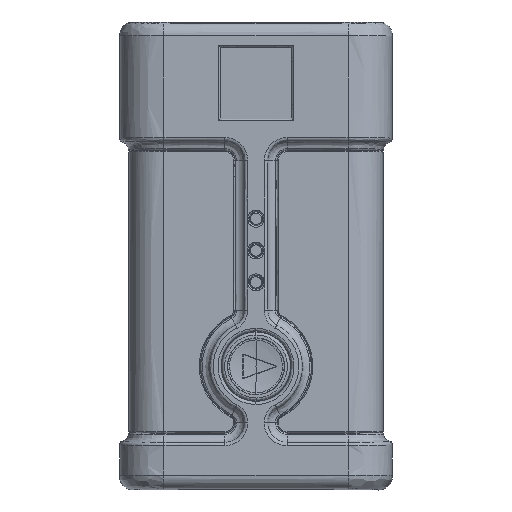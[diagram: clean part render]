
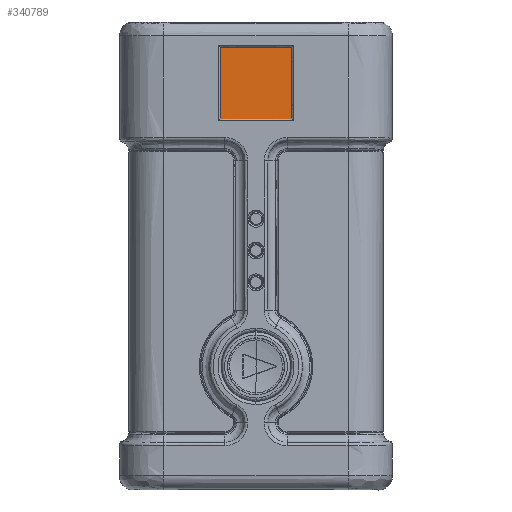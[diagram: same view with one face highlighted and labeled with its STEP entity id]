
A CAD part, front view. The second image highlights one B-rep face of the part: STEP entity #340789.
In plain terms, the highlighted planar face has unit normal (0, -1, 0).
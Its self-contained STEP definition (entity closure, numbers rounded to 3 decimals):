
#11855 = ORIENTED_EDGE ( 'NONE', *, *, #307532, .T. ) ;
#17626 = LINE ( 'NONE', #68305, #65494 ) ;
#26515 = VECTOR ( 'NONE', #213146, 1000. ) ;
#50999 = VECTOR ( 'NONE', #206475, 1000. ) ;
#60345 = DIRECTION ( 'NONE',  ( 0., 1., 0. ) ) ;
#65494 = VECTOR ( 'NONE', #232772, 1000. ) ;
#66495 = EDGE_CURVE ( 'NONE', #197398, #182605, #17626, .T. ) ;
#68305 = CARTESIAN_POINT ( 'NONE',  ( -7.9, -6.12, 38.05 ) ) ;
#90853 = CARTESIAN_POINT ( 'NONE',  ( -7.9, -6.12, 45.95 ) ) ;
#114055 = VECTOR ( 'NONE', #216165, 1000. ) ;
#122600 = EDGE_CURVE ( 'NONE', #182605, #163298, #264302, .T. ) ;
#136456 = CARTESIAN_POINT ( 'NONE',  ( 7.9, -6.12, 30.15 ) ) ;
#151900 = VERTEX_POINT ( 'NONE', #243113 ) ;
#163298 = VERTEX_POINT ( 'NONE', #243604 ) ;
#176284 = ORIENTED_EDGE ( 'NONE', *, *, #122600, .T. ) ;
#182605 = VERTEX_POINT ( 'NONE', #285081 ) ;
#183764 = LINE ( 'NONE', #290426, #114055 ) ;
#195947 = PLANE ( 'NONE',  #328735 ) ;
#197398 = VERTEX_POINT ( 'NONE', #90853 ) ;
#206475 = DIRECTION ( 'NONE',  ( 1., 0., 0. ) ) ;
#211362 = CARTESIAN_POINT ( 'NONE',  ( 7.9, -6.12, 38.05 ) ) ;
#213146 = DIRECTION ( 'NONE',  ( 0., 0., 1. ) ) ;
#216165 = DIRECTION ( 'NONE',  ( -1., 0., 0. ) ) ;
#217062 = ORIENTED_EDGE ( 'NONE', *, *, #315767, .T. ) ;
#232772 = DIRECTION ( 'NONE',  ( 0., 0., -1. ) ) ;
#243113 = CARTESIAN_POINT ( 'NONE',  ( 7.9, -6.12, 45.95 ) ) ;
#243604 = CARTESIAN_POINT ( 'NONE',  ( 7.9, -6.12, 30.15 ) ) ;
#248420 = DIRECTION ( 'NONE',  ( -1., 0., 0. ) ) ;
#264302 = LINE ( 'NONE', #284280, #50999 ) ;
#284280 = CARTESIAN_POINT ( 'NONE',  ( 0., -6.12, 30.15 ) ) ;
#285081 = CARTESIAN_POINT ( 'NONE',  ( -7.9, -6.12, 30.15 ) ) ;
#290426 = CARTESIAN_POINT ( 'NONE',  ( 0., -6.12, 45.95 ) ) ;
#290947 = LINE ( 'NONE', #211362, #26515 ) ;
#304466 = FACE_OUTER_BOUND ( 'NONE', #355861, .T. ) ;
#307532 = EDGE_CURVE ( 'NONE', #163298, #151900, #290947, .T. ) ;
#315767 = EDGE_CURVE ( 'NONE', #151900, #197398, #183764, .T. ) ;
#328735 = AXIS2_PLACEMENT_3D ( 'NONE', #136456, #60345, #248420 ) ;
#329584 = ORIENTED_EDGE ( 'NONE', *, *, #66495, .T. ) ;
#340789 = ADVANCED_FACE ( 'NONE', ( #304466 ), #195947, .F. ) ;
#355861 = EDGE_LOOP ( 'NONE', ( #176284, #11855, #217062, #329584 ) ) ;
